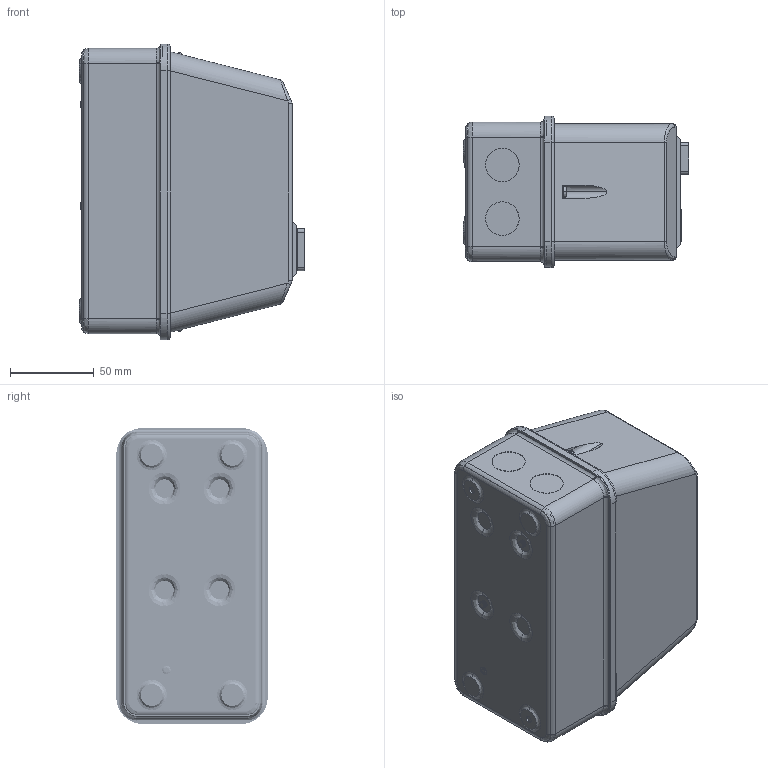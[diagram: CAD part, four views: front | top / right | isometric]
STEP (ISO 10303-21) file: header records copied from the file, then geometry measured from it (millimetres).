
FILE_DESCRIPTION(('FreeCAD Model'),'2;1');
FILE_NAME('C:/Users/Metaltex-99/Desktop/CPM12_22.stp', '2020-08-10T11:12:13',('Engenharia Metaltex'),('Metaltex'), 'Open CASCADE STEP processor 7.3','FreeCAD','Unknown');
FILE_SCHEMA(('AUTOMOTIVE_DESIGN { 1 0 10303 214 1 1 1 1 }'));
Products named in the file (1): CPM12_22
Bounding box: 134.3 x 90.2 x 176.2 mm (x, y, z)
Surface area: 203859.3 mm2 (no closed solid volume)
Topology: 0 solids, 16 shells, 1383 faces, 3478 edges, 2198 vertices
Faces by surface type: plane 614, cylinder 579, bspline 190
Entity records: 237729 total; most frequent: CARTESIAN_POINT 175576, DIRECTION 9221, ORIENTED_EDGE 6956, PCURVE 6956, DEFINITIONAL_REPRESENTATION 6956, LINE 5840, VECTOR 5840, EDGE_CURVE 3478
